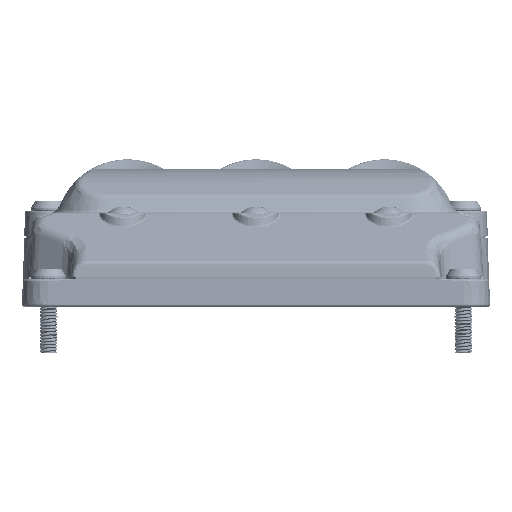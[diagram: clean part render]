
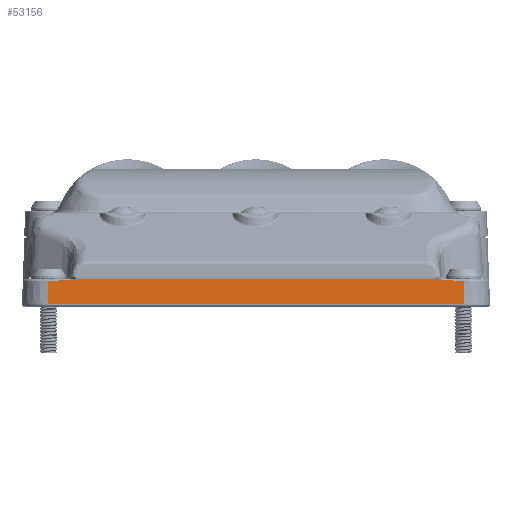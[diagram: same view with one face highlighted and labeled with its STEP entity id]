
A CAD part, top view. The second image highlights one B-rep face of the part: STEP entity #53156.
In plain terms, the highlighted planar face has unit normal (0, 0.035, 0.999).
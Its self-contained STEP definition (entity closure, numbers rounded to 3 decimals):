
#1471 = CARTESIAN_POINT ( 'NONE',  ( -43.25, 5.517, 40.707 ) ) ;
#1978 = CARTESIAN_POINT ( 'NONE',  ( -45.25, 0.517, 40.882 ) ) ;
#2298 = EDGE_CURVE ( 'NONE', #138922, #55429, #75784, .T. ) ;
#6947 = CARTESIAN_POINT ( 'NONE',  ( 45.25, 0., 40.9 ) ) ;
#7238 = CARTESIAN_POINT ( 'NONE',  ( -45.25, 5.517, 40.707 ) ) ;
#9330 = ORIENTED_EDGE ( 'NONE', *, *, #92086, .T. ) ;
#13197 = ORIENTED_EDGE ( 'NONE', *, *, #88881, .T. ) ;
#13650 = CARTESIAN_POINT ( 'NONE',  ( -39.25, 6., 40.69 ) ) ;
#16868 = LINE ( 'NONE', #105267, #46759 ) ;
#22201 = CARTESIAN_POINT ( 'NONE',  ( 50., 0., 40.9 ) ) ;
#25473 = CARTESIAN_POINT ( 'NONE',  ( -46.25, 6., 40.69 ) ) ;
#28361 = AXIS2_PLACEMENT_3D ( 'NONE', #22201, #123578, #109803 ) ;
#35162 = CARTESIAN_POINT ( 'NONE',  ( 39.25, 6., 40.69 ) ) ;
#36769 = PLANE ( 'NONE',  #28361 ) ;
#42871 = VERTEX_POINT ( 'NONE', #7238 ) ;
#43619 = LINE ( 'NONE', #153229, #63445 ) ;
#46759 = VECTOR ( 'NONE', #104465, 1000. ) ;
#47336 = CARTESIAN_POINT ( 'NONE',  ( 45.25, 5.517, 40.707 ) ) ;
#53156 = ADVANCED_FACE ( 'NONE', ( #134987 ), #36769, .T. ) ;
#55429 = VERTEX_POINT ( 'NONE', #141944 ) ;
#55656 = DIRECTION ( 'NONE',  ( 0., -0.999, 0.035 ) ) ;
#63445 = VECTOR ( 'NONE', #142616, 1000. ) ;
#64440 = DIRECTION ( 'NONE',  ( -1., 0., 0. ) ) ;
#65034 = CARTESIAN_POINT ( 'NONE',  ( 39.25, 6., 40.69 ) ) ;
#68639 = LINE ( 'NONE', #6947, #101310 ) ;
#72752 = EDGE_LOOP ( 'NONE', ( #122960, #13197, #80352, #9330, #87033, #75036 ) ) ;
#75036 = ORIENTED_EDGE ( 'NONE', *, *, #86844, .T. ) ;
#75784 = LINE ( 'NONE', #25473, #88126 ) ;
#80352 = ORIENTED_EDGE ( 'NONE', *, *, #103086, .T. ) ;
#81665 = B_SPLINE_CURVE_WITH_KNOTS ( 'NONE', 3,
 ( #47336, #96851, #146364, #35162 ),
 .UNSPECIFIED., .F., .F.,
 ( 4, 4 ),
 ( 0.085, 0.091 ),
 .UNSPECIFIED. ) ;
#86844 = EDGE_CURVE ( 'NONE', #152099, #138922, #81665, .T. ) ;
#87033 = ORIENTED_EDGE ( 'NONE', *, *, #93612, .F. ) ;
#88126 = VECTOR ( 'NONE', #64440, 1000. ) ;
#88881 = EDGE_CURVE ( 'NONE', #55429, #42871, #98582, .T. ) ;
#92086 = EDGE_CURVE ( 'NONE', #123638, #103151, #16868, .T. ) ;
#93612 = EDGE_CURVE ( 'NONE', #152099, #103151, #68639, .T. ) ;
#96851 = CARTESIAN_POINT ( 'NONE',  ( 43.25, 5.517, 40.707 ) ) ;
#98582 = B_SPLINE_CURVE_WITH_KNOTS ( 'NONE', 3,
 ( #13650, #112623, #1471, #100465 ),
 .UNSPECIFIED., .F., .F.,
 ( 4, 4 ),
 ( 0.001, 0.007 ),
 .UNSPECIFIED. ) ;
#100465 = CARTESIAN_POINT ( 'NONE',  ( -45.25, 5.517, 40.707 ) ) ;
#101310 = VECTOR ( 'NONE', #55656, 1000. ) ;
#103086 = EDGE_CURVE ( 'NONE', #42871, #123638, #43619, .T. ) ;
#103151 = VERTEX_POINT ( 'NONE', #128044 ) ;
#104465 = DIRECTION ( 'NONE',  ( 1., 0., 0. ) ) ;
#105267 = CARTESIAN_POINT ( 'NONE',  ( 50., 0.517, 40.882 ) ) ;
#109803 = DIRECTION ( 'NONE',  ( 0., -0.999, 0.035 ) ) ;
#112623 = CARTESIAN_POINT ( 'NONE',  ( -41.25, 5.759, 40.699 ) ) ;
#117503 = CARTESIAN_POINT ( 'NONE',  ( 45.25, 5.517, 40.707 ) ) ;
#122960 = ORIENTED_EDGE ( 'NONE', *, *, #2298, .T. ) ;
#123578 = DIRECTION ( 'NONE',  ( 0., 0.035, 0.999 ) ) ;
#123638 = VERTEX_POINT ( 'NONE', #1978 ) ;
#128044 = CARTESIAN_POINT ( 'NONE',  ( 45.25, 0.517, 40.882 ) ) ;
#134987 = FACE_OUTER_BOUND ( 'NONE', #72752, .T. ) ;
#138922 = VERTEX_POINT ( 'NONE', #65034 ) ;
#141944 = CARTESIAN_POINT ( 'NONE',  ( -39.25, 6., 40.69 ) ) ;
#142616 = DIRECTION ( 'NONE',  ( 0., -0.999, 0.035 ) ) ;
#146364 = CARTESIAN_POINT ( 'NONE',  ( 41.25, 5.759, 40.699 ) ) ;
#152099 = VERTEX_POINT ( 'NONE', #117503 ) ;
#153229 = CARTESIAN_POINT ( 'NONE',  ( -45.25, 0., 40.9 ) ) ;
